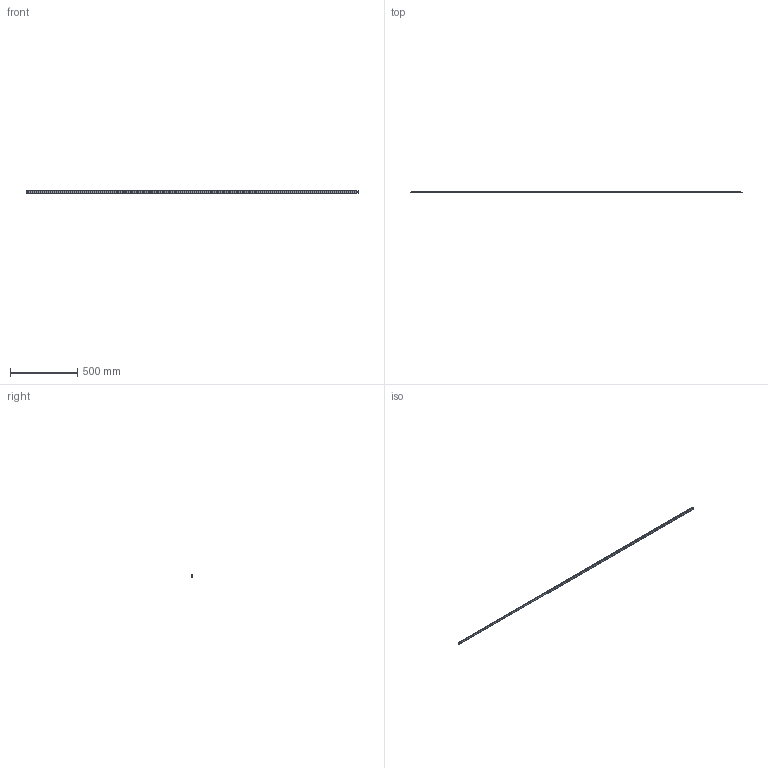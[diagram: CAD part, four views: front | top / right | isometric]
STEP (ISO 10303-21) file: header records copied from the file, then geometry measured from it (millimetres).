
FILE_DESCRIPTION (( 'STEP AP214' ), '1' );
FILE_NAME ('SAScale_exposed.ScaleLneght2460.STEP', '2026-03-16T07:32:58', ( '' ), ( '' ), 'SwSTEP 2.0', 'SolidWorks 2024', '' );
FILE_SCHEMA (( 'AUTOMOTIVE_DESIGN' ));
Length unit declared in the file: millimetre
Products named in the file (1): SAScale_exposed.ScaleLneght2460
Bounding box: 2460 x 6 x 18 mm (x, y, z)
Volume: 244800.6 mm3; surface area: 211668.8 mm2
Topology: 2 solids, 2 shells, 52 faces, 141 edges, 94 vertices
Faces by surface type: plane 37, cylinder 15
Entity records: 2247 total; most frequent: CARTESIAN_POINT 288, ORIENTED_EDGE 282, DIRECTION 277, EDGE_CURVE 141, VECTOR 111, LINE 111, VERTEX_POINT 94, AXIS2_PLACEMENT_3D 83
